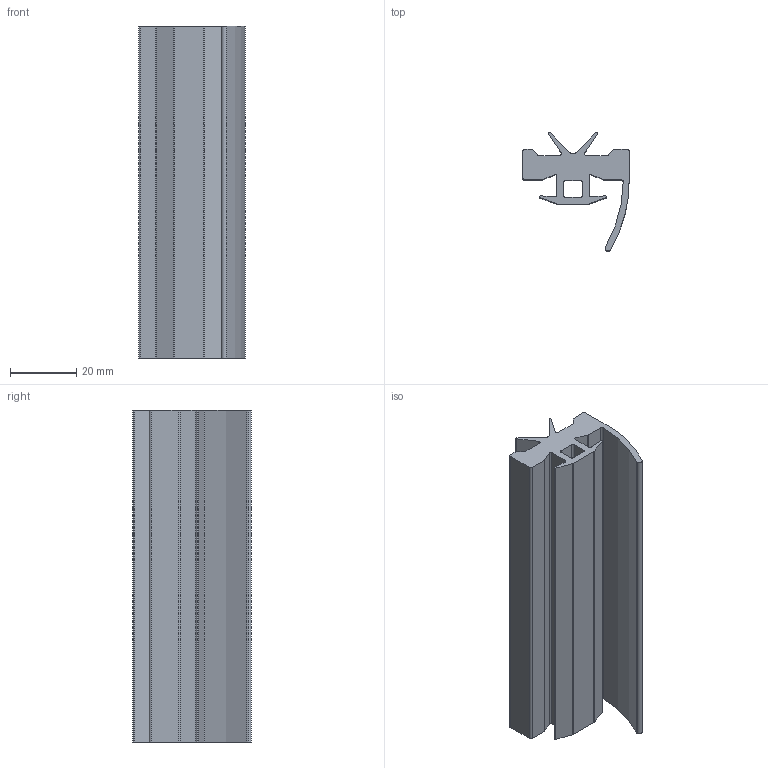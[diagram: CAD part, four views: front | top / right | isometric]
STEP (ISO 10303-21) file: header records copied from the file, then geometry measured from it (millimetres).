
FILE_DESCRIPTION (( 'STEP AP203' ), '1' );
FILE_NAME ('084.106.130.STEP', '2013-01-23T15:50:54', ( 'Alusic' ), ( 'Alusic' ), 'SwSTEP 2.0', 'SolidWorks 2011', '' );
FILE_SCHEMA (( 'CONFIG_CONTROL_DESIGN' ));
Length unit declared in the file: millimetre
Products named in the file (1): 084.106.130
Bounding box: 32.07 x 35.63 x 100 mm (x, y, z)
Volume: 36617.1 mm3; surface area: 21905 mm2
Topology: 1 solids, 1 shells, 63 faces, 183 edges, 122 vertices
Faces by surface type: cylinder 34, plane 29
Entity records: 2186 total; most frequent: DIRECTION 379, CARTESIAN_POINT 369, ORIENTED_EDGE 366, EDGE_CURVE 183, AXIS2_PLACEMENT_3D 132, VERTEX_POINT 122, LINE 115, VECTOR 115
